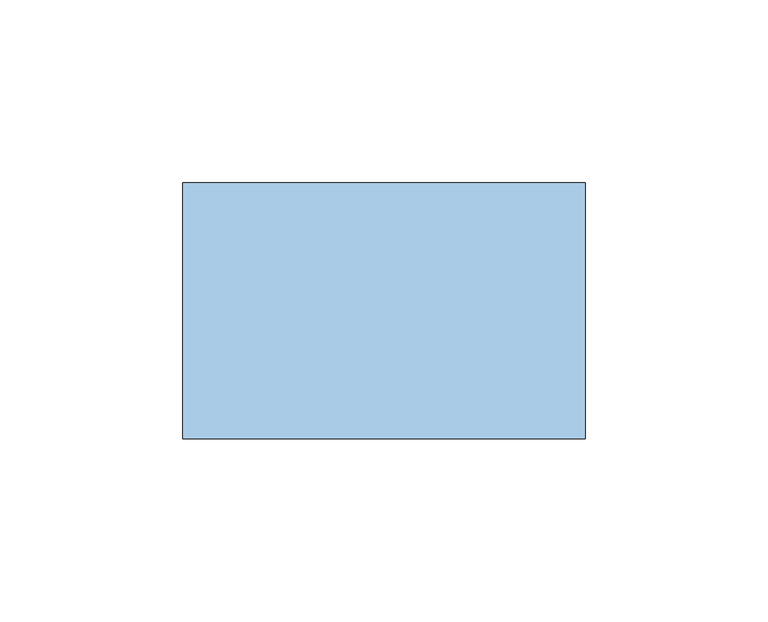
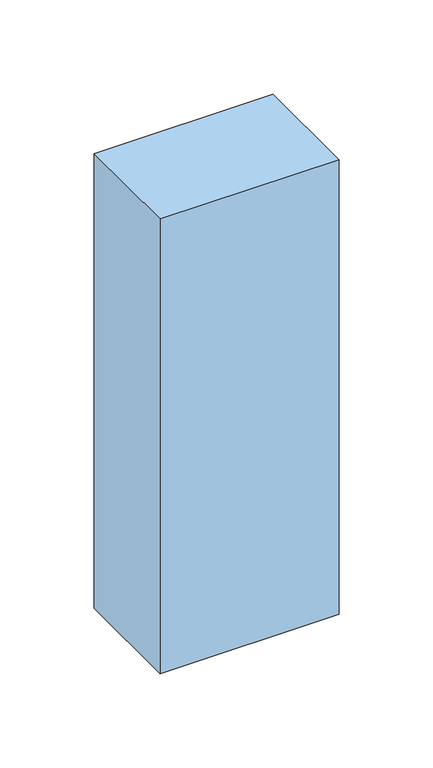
"""IFC4 building model written with IfcOpenShell, lengths in millimetres: window geometry, Wn_KR_Ниша в стене : Wn_KR_Ниша в стене."""

import ifcopenshell
import ifcopenshell.guid

model = None  # the IFC model being written
_history = None  # IfcOwnerHistory: only IFC2X3 demands one
_inside = {}  # id of a spatial element -> (the spatial element, [elements in it])
_under = {}  # id of a project, library or spatial element -> (it, [spatial elements below it])
_declared = {}  # id of a project -> (the project, [libraries it declares])
_typed = {}  # id of a type object -> (the type object, [elements of that type])
_made_of = {}  # id of a material, layer set ... -> (it, [elements and type objects made of it])


def new_model(schema):
    """Start an empty IFC model of exactly this schema.

    Asked for "IFC4X3", IfcOpenShell would pick the latest addendum, in which some entities
    have other attributes; the version numbers below select the first issue.
    IFC2X3 requires an IfcOwnerHistory on every rooted entity: one is made here for all.
    """
    global model, _history
    if schema == "IFC4X3":
        model = ifcopenshell.file(schema_version=(4, 3, 0, 0))
    else:
        model = ifcopenshell.file(schema=schema)
    _inside.clear()
    _under.clear()
    _declared.clear()
    _typed.clear()
    _made_of.clear()
    _history = None
    if model.schema == "IFC2X3":
        org = make("IfcOrganization", Name="unknown")
        user = make(
            "IfcPersonAndOrganization",
            ThePerson=make("IfcPerson", FamilyName="unknown"),
            TheOrganization=org,
        )
        app = make(
            "IfcApplication",
            ApplicationDeveloper=org,
            Version="unknown",
            ApplicationFullName="unknown",
            ApplicationIdentifier="unknown",
        )
        _history = make(
            "IfcOwnerHistory",
            OwningUser=user,
            OwningApplication=app,
            ChangeAction="ADDED",
            CreationDate=0,
        )
    return model


def make(cls, **values):
    """One entity of the class cls with the attributes given. An attribute that is None is left unset."""
    return model.create_entity(
        cls, **{name: value for name, value in values.items() if value is not None}
    )


def rooted(cls, **values):
    """An entity with a GlobalId (a new one), such as an element, a storey or a relation."""
    return make(cls, GlobalId=ifcopenshell.guid.new(), OwnerHistory=_history, **values)


def si_unit(unit_type, name, prefix=None):
    """IfcSIUnit, for example si_unit("LENGTHUNIT", "METRE", prefix="MILLI")."""
    return make("IfcSIUnit", UnitType=unit_type, Prefix=prefix, Name=name)


def assignment(units):
    """IfcUnitAssignment: the units of a project."""
    return None if units is None else make("IfcUnitAssignment", Units=units)


def point(xyz):
    """IfcCartesianPoint."""
    return None if xyz is None else make("IfcCartesianPoint", Coordinates=xyz)


def direction(xyz):
    """IfcDirection."""
    return None if xyz is None else make("IfcDirection", DirectionRatios=xyz)


def frame(location, z_axis=None, x_axis=None):
    """IfcAxis2Placement3D, a coordinate frame: its origin and axes. An axis left out is left unset."""
    return make(
        "IfcAxis2Placement3D",
        Location=point(location),
        Axis=direction(z_axis),
        RefDirection=direction(x_axis),
    )


def origin():
    """The frame at (0, 0, 0) with its axes left unset."""
    return frame((0.0, 0.0, 0.0))


def origin_with_axes():
    """The frame at (0, 0, 0) with the z axis (0, 0, 1) and the x axis (1, 0, 0) written out."""
    return frame((0.0, 0.0, 0.0), z_axis=(0.0, 0.0, 1.0), x_axis=(1.0, 0.0, 0.0))


def place(relative_to, where):
    """IfcLocalPlacement: puts the frame where relative to a parent placement (None: the world)."""
    return make(
        "IfcLocalPlacement", PlacementRelTo=relative_to, RelativePlacement=where
    )


def context(
    kind, dimensions, precision=None, world=None, true_north=None, identifier=None
):
    """IfcGeometricRepresentationContext, for example the 3D "Model" context."""
    return make(
        "IfcGeometricRepresentationContext",
        ContextIdentifier=identifier,
        ContextType=kind,
        CoordinateSpaceDimension=dimensions,
        Precision=precision,
        WorldCoordinateSystem=world,
        TrueNorth=true_north,
    )


def project(units=None, contexts=None):
    """IfcProject with its units and contexts."""
    return rooted(
        "IfcProject",
        Name="project",
        RepresentationContexts=contexts,
        UnitsInContext=assignment(units),
    )


def spatial(cls, under=None, at=None, **own):
    """A site, building, storey or space (cls), placed at a placement, below another one or the project."""
    s = rooted(cls, ObjectPlacement=at, **own)
    if under is not None:
        _under.setdefault(under.id(), (under, []))[1].append(s)
    return s


def polyline(points):
    """IfcPolyline through the points."""
    return make("IfcPolyline", Points=[point(p) for p in points])


def outline(outer, holes=None, kind="AREA"):
    """IfcArbitraryClosedProfileDef: a profile drawn as a closed curve; with holes, ...WithVoids."""
    if holes is None:
        return make("IfcArbitraryClosedProfileDef", ProfileType=kind, OuterCurve=outer)
    return make(
        "IfcArbitraryProfileDefWithVoids",
        ProfileType=kind,
        OuterCurve=outer,
        InnerCurves=holes,
    )


def extrude(swept, where, along, depth):
    """IfcExtrudedAreaSolid: the profile swept, set in the frame where, extruded along a direction by depth."""
    return make(
        "IfcExtrudedAreaSolid",
        SweptArea=swept,
        Position=where,
        ExtrudedDirection=direction(along),
        Depth=depth,
    )


def shape(context_of_items, identifier, shape_type, items):
    """IfcShapeRepresentation: the items that make up one representation, for example the "Body"."""
    return make(
        "IfcShapeRepresentation",
        ContextOfItems=context_of_items,
        RepresentationIdentifier=identifier,
        RepresentationType=shape_type,
        Items=items,
    )


def source(mapping_origin, context_of_items, identifier, shape_type, items):
    """IfcRepresentationMap: a shape defined once, which mapped items show again and again."""
    return make(
        "IfcRepresentationMap",
        MappingOrigin=mapping_origin,
        MappedRepresentation=shape(context_of_items, identifier, shape_type, items),
    )


def transform(
    local_origin,
    x_axis=None,
    y_axis=None,
    z_axis=None,
    scale=None,
    scale2=None,
    scale3=None,
    uniform=True,
):
    """IfcCartesianTransformationOperator3D, or its non-uniform kind. x_axis, y_axis, z_axis: its Axis1, 2, 3."""
    if uniform:
        return make(
            "IfcCartesianTransformationOperator3D",
            Axis1=direction(x_axis),
            Axis2=direction(y_axis),
            LocalOrigin=point(local_origin),
            Scale=scale,
            Axis3=direction(z_axis),
        )
    return make(
        "IfcCartesianTransformationOperator3DnonUniform",
        Axis1=direction(x_axis),
        Axis2=direction(y_axis),
        LocalOrigin=point(local_origin),
        Scale=scale,
        Axis3=direction(z_axis),
        Scale2=scale2,
        Scale3=scale3,
    )


def mapped(mapping_source, mapping_target):
    """IfcMappedItem: shows the shape of a source again, moved by a transform."""
    return make(
        "IfcMappedItem", MappingSource=mapping_source, MappingTarget=mapping_target
    )


def made_of(thing, what):
    """Note that an element or type object is made of a material, layer set ...; save() writes the relation."""
    if what is not None:
        _made_of.setdefault(what.id(), (what, []))[1].append(thing)
    return thing


def element(
    cls,
    number,
    at=None,
    inside=None,
    cuts=None,
    type_object=None,
    material=None,
    context=None,
    identifier="Body",
    shape_type=None,
    held_by="IfcProductDefinitionShape",
    body=None,
    shapes=None,
    **own,
):
    """One element of the class cls, such as IfcWall. Its Tag is "e" and its number.

    at: its placement. inside: the storey or other place that contains it. cuts: it is an
    opening in that element (IfcRelVoidsElement). A single representation is given by context,
    identifier, shape_type and body (its items); several are given by shapes. held_by: the class
    of the entity that holds the representations. save() writes the other relations.
    """
    e = rooted(cls, Tag="e%d" % number, ObjectPlacement=at, **own)
    if body is not None:
        shapes = [shape(context, identifier, shape_type, body)]
    if shapes is not None:
        e.Representation = make(held_by, Representations=shapes)
    if inside is not None:
        _inside.setdefault(inside.id(), (inside, []))[1].append(e)
    if cuts is not None:
        rooted(
            "IfcRelVoidsElement", RelatingBuildingElement=cuts, RelatedOpeningElement=e
        )
    if type_object is not None:
        _typed.setdefault(type_object.id(), (type_object, []))[1].append(e)
    return made_of(e, material)


def aggregate(whole, parts):
    """IfcRelAggregates: a whole, such as a stair, and the parts it consists of."""
    return rooted("IfcRelAggregates", RelatingObject=whole, RelatedObjects=parts)


def save(model, path):
    """Write the relations noted so far, then the file.

    IfcRelAggregates (storeys below a building ...), IfcRelContainedInSpatialStructure (elements
    in a storey), IfcRelDefinesByType, IfcRelAssociatesMaterial and IfcRelDeclares: one each for
    every whole, place, type object, material and project.
    """
    for whole, parts in _under.values():
        aggregate(whole, parts)
    for where, things in _inside.values():
        rooted(
            "IfcRelContainedInSpatialStructure",
            RelatedElements=things,
            RelatingStructure=where,
        )
    for kind, things in _typed.values():
        rooted("IfcRelDefinesByType", RelatedObjects=things, RelatingType=kind)
    for what, things in _made_of.values():
        rooted("IfcRelAssociatesMaterial", RelatedObjects=things, RelatingMaterial=what)
    for by, libraries in _declared.values():
        rooted("IfcRelDeclares", RelatingContext=by, RelatedDefinitions=libraries)
    model.write(path)


def window_6752e5d0(model_context):
    return source(origin(), model_context, "Body", "SweptSolid", [
        extrude(outline(polyline([(180.0, -10.0), (180.0, -80.0), (70.0, -80.0), (70.0, -10.0), (180.0, -10.0)])), origin_with_axes(), (0.0, 0.0, 1.0), 295.0),
    ])


if __name__ == "__main__":
    model = new_model("IFC4")
    model_context = context("Model", 3, world=origin())
    ifc_project = project(units=[si_unit("LENGTHUNIT", "METRE", prefix="MILLI")], contexts=[model_context])
    site = spatial("IfcSite", under=ifc_project)
    building = spatial("IfcBuilding", under=site)
    placement = place(None, origin())
    window_shape = window_6752e5d0(model_context)
    element("IfcWindow", 1, ObjectType="Wn_KR_Ниша в стене : Wn_KR_Ниша в стене", at=placement, inside=building, context=model_context, shape_type="MappedRepresentation", body=[
        mapped(window_shape, transform((0.0, 0.0, 0.0), x_axis=(1.0, 0.0, 0.0), y_axis=(0.0, 1.0, 0.0), z_axis=(0.0, 0.0, 1.0))),
    ])
    save(model, "model.ifc")
